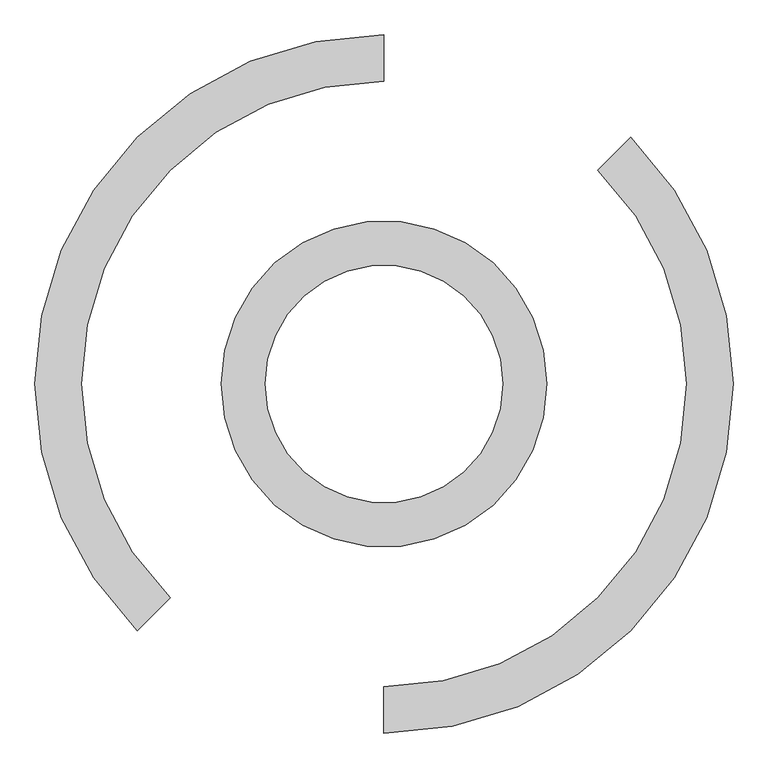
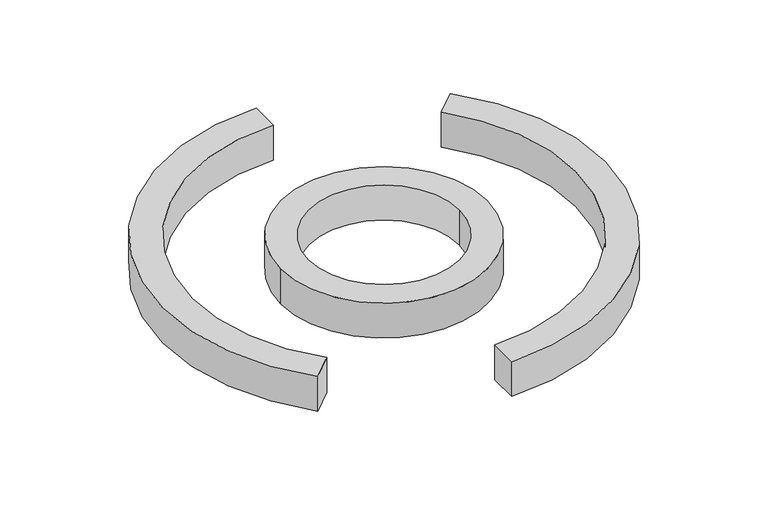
"""IFC4 building model written with IfcOpenShell, lengths in millimetres: proxy geometry, 阅读区造型座位 : 阅读区造型座位."""

from ifc_helpers import new_model, si_unit, point, frame_2d, origin, origin_with_axes, place, context, project, spatial, polyline, circle_curve, trimmed, segment, composite_curve, outline, extrude, source, transform, mapped, element, save


def generic_models_36de94e7(model_context):
    return source(origin(), model_context, "Body", "SweptSolid", [
        extrude(outline(composite_curve([segment(trimmed(circle_curve(frame_2d((-3932.6683839, -2585.8229847)), 3000.0), [point((-6053.9887275, -4707.1433283))], [point((-3932.6683839, 414.1770153))], False, "CARTESIAN"), True, "CONTINUOUS"), segment(polyline([(-3932.6683839, 414.1770153), (-3932.6683839, 14.1770153)]), True, "CONTINUOUS"), segment(trimmed(circle_curve(frame_2d((-3932.6683839, -2585.8229847)), 2600.0), [point((-3932.6683839, 14.1770153))], [point((-5771.146015, -4424.3006158))], True, "CARTESIAN"), True, "CONTINUOUS"), segment(polyline([(-5771.146015, -4424.3006158), (-6053.9887275, -4707.1433283)]), True, "CONTINUOUS")], self_intersect=False)), origin_with_axes(), (0.0, 0.0, 1.0), 500.0),
        extrude(outline(composite_curve([segment(trimmed(circle_curve(frame_2d((-3932.6683839, -2585.8229847)), 1400.0), [point((-5332.6683839, -2585.8229847))], [point((-2532.6683839, -2585.8229847))], False, "CARTESIAN"), True, "CONTINUOUS"), segment(trimmed(circle_curve(frame_2d((-3932.6683839, -2585.8229847)), 1400.0), [point((-2532.6683839, -2585.8229847))], [point((-5332.6683839, -2585.8229847))], False, "CARTESIAN"), True, "CONTINUOUS")], self_intersect=False), holes=[composite_curve([segment(trimmed(circle_curve(frame_2d((-3932.6683839, -2585.8229847)), 1020.0), [point((-4952.6683839, -2585.8229847))], [point((-2912.6683839, -2585.8229847))], True, "CARTESIAN"), True, "CONTINUOUS"), segment(trimmed(circle_curve(frame_2d((-3932.6683839, -2585.8229847)), 1020.0), [point((-2912.6683839, -2585.8229847))], [point((-4952.6683839, -2585.8229847))], True, "CARTESIAN"), True, "CONTINUOUS")], self_intersect=False)]), origin_with_axes(), (0.0, 0.0, 1.0), 500.0),
        extrude(outline(composite_curve([segment(polyline([(-3932.6683839, -5585.8229847), (-3932.6683839, -5185.8229847)]), True, "CONTINUOUS"), segment(trimmed(circle_curve(frame_2d((-3932.6683839, -2585.8229847)), 2600.0), [point((-3932.6683839, -5185.8229847))], [point((-2094.1907529, -747.3453536))], True, "CARTESIAN"), True, "CONTINUOUS"), segment(polyline([(-2094.1907529, -747.3453536), (-1811.3480404, -464.5026411)]), True, "CONTINUOUS"), segment(trimmed(circle_curve(frame_2d((-3932.6683839, -2585.8229847)), 3000.0), [point((-1811.3480404, -464.5026411))], [point((-3932.6683839, -5585.8229847))], False, "CARTESIAN"), True, "CONTINUOUS")], self_intersect=False)), origin_with_axes(), (0.0, 0.0, 1.0), 500.0),
    ])


if __name__ == "__main__":
    model = new_model("IFC4")
    model_context = context("Model", 3, world=origin())
    ifc_project = project(units=[si_unit("LENGTHUNIT", "METRE", prefix="MILLI")], contexts=[model_context])
    site = spatial("IfcSite", under=ifc_project)
    building = spatial("IfcBuilding", under=site)
    placement = place(None, origin())
    generic_models_shape = generic_models_36de94e7(model_context)
    element("IfcBuildingElementProxy", 1, Name="阅读区造型座位 : 阅读区造型座位", ObjectType="阅读区造型座位 : 阅读区造型座位", at=placement, inside=building, context=model_context, shape_type="MappedRepresentation", body=[
        mapped(generic_models_shape, transform((0.0, 0.0, 0.0), x_axis=(1.0, 0.0, 0.0), y_axis=(0.0, 1.0, 0.0), z_axis=(0.0, 0.0, 1.0))),
    ])
    save(model, "model.ifc")
